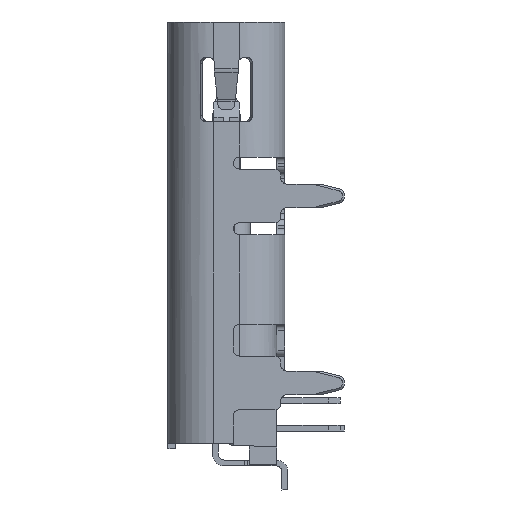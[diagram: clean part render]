
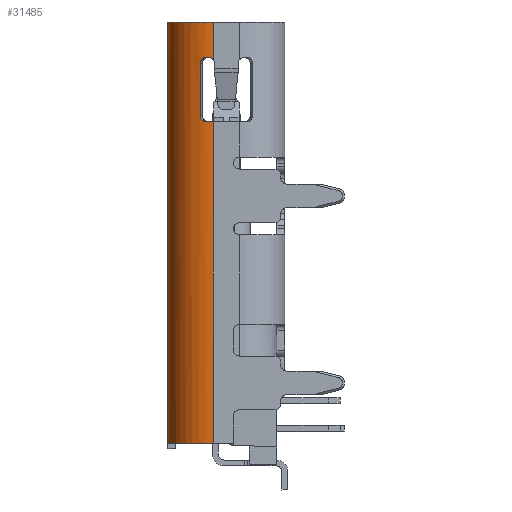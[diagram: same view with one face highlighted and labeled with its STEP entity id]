
A CAD part, left-side view. The second image highlights one B-rep face of the part: STEP entity #31485.
In plain terms, the highlighted cylindrical face has radius 1.15 mm (diameter 2.3 mm), a partial arc.
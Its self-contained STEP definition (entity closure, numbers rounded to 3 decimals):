
#3358=DIRECTION('',(0.,0.,1.));
#3359=VECTOR('',#3358,8.14);
#3360=CARTESIAN_POINT('',(-4.347,2.293,
-4.519));
#3361=LINE('',#3360,#3359);
#3362=CARTESIAN_POINT('',(-3.197,3.443,
-4.477));
#3363=CARTESIAN_POINT('',(-3.208,3.443,
-4.486));
#3364=CARTESIAN_POINT('',(-3.234,3.442,
-4.502));
#3365=CARTESIAN_POINT('',(-3.276,3.44,
-4.516));
#3366=CARTESIAN_POINT('',(-3.305,3.438,
-4.519));
#3367=CARTESIAN_POINT('',(-3.32,3.436,
-4.519));
#3369=DIRECTION('',(0.,0.,-1.));
#3370=VECTOR('',#3369,10.617);
#3371=CARTESIAN_POINT('',(-3.197,3.443,6.141));
#3372=LINE('',#3371,#3370);
#3373=DIRECTION('',(0.,0.,1.));
#3374=VECTOR('',#3373,0.96);
#3375=CARTESIAN_POINT('',(-4.347,2.293,5.181));
#3376=LINE('',#3375,#3374);
#3377=CARTESIAN_POINT('',(-4.34,2.413,5.241));
#3378=CARTESIAN_POINT('',(-4.342,2.397,5.241));
#3379=CARTESIAN_POINT('',(-4.344,2.367,5.236));
#3380=CARTESIAN_POINT('',(-4.346,2.324,5.215));
#3381=CARTESIAN_POINT('',(-4.347,2.302,5.193));
#3382=CARTESIAN_POINT('',(-4.347,2.293,5.181));
#3384=CARTESIAN_POINT('',(-4.296,2.629,5.091));
#3385=CARTESIAN_POINT('',(-4.296,2.629,5.107));
#3386=CARTESIAN_POINT('',(-4.298,2.624,5.138));
#3387=CARTESIAN_POINT('',(-4.304,2.603,5.181));
#3388=CARTESIAN_POINT('',(-4.313,2.571,5.214));
#3389=CARTESIAN_POINT('',(-4.322,2.529,5.235));
#3390=CARTESIAN_POINT('',(-4.328,2.499,5.241));
#3391=CARTESIAN_POINT('',(-4.331,2.483,5.241));
#3393=DIRECTION('',(0.,0.,1.));
#3394=VECTOR('',#3393,1.32);
#3395=CARTESIAN_POINT('',(-4.296,2.629,3.771));
#3396=LINE('',#3395,#3394);
#3397=CARTESIAN_POINT('',(-4.331,2.483,3.621));
#3398=CARTESIAN_POINT('',(-4.328,2.499,3.621));
#3399=CARTESIAN_POINT('',(-4.322,2.529,3.626));
#3400=CARTESIAN_POINT('',(-4.313,2.571,3.647));
#3401=CARTESIAN_POINT('',(-4.304,2.603,3.681));
#3402=CARTESIAN_POINT('',(-4.298,2.624,3.723));
#3403=CARTESIAN_POINT('',(-4.296,2.629,3.754));
#3404=CARTESIAN_POINT('',(-4.296,2.629,3.771));
#4913=CARTESIAN_POINT('',(-3.197,2.293,3.621));
#4914=DIRECTION('',(0.,0.,1.));
#4915=DIRECTION('',(-0.986,0.165,0.));
#4916=AXIS2_PLACEMENT_3D('',#4913,#4914,#4915);
#4939=CARTESIAN_POINT('',(-3.197,2.293,5.241));
#4940=DIRECTION('',(0.,0.,-1.));
#4941=DIRECTION('',(-0.995,0.104,0.));
#4942=AXIS2_PLACEMENT_3D('',#4939,#4940,#4941);
#5242=CARTESIAN_POINT('',(-3.197,2.293,6.141));
#5243=DIRECTION('',(0.,0.,1.));
#5244=DIRECTION('',(0.,1.,0.));
#5245=AXIS2_PLACEMENT_3D('',#5242,#5243,#5244);
#5508=CARTESIAN_POINT('',(-3.197,2.293,
-4.519));
#5509=DIRECTION('',(0.,0.,-1.));
#5510=DIRECTION('',(-1.,0.,0.));
#5511=AXIS2_PLACEMENT_3D('',#5508,#5509,#5510);
#21552=VERTEX_POINT('',#3377);
#21553=VERTEX_POINT('',#3382);
#22686=CARTESIAN_POINT('',(-4.296,2.629,
3.771));
#22687=CARTESIAN_POINT('',(-4.296,2.629,
5.091));
#22688=VERTEX_POINT('',#22686);
#22689=VERTEX_POINT('',#22687);
#23293=VERTEX_POINT('',#3397);
#23574=CARTESIAN_POINT('',(-3.197,3.443,
6.141));
#23576=VERTEX_POINT('',#23574);
#24458=CARTESIAN_POINT('',(-3.197,3.443,
-4.477));
#24459=VERTEX_POINT('',#24458);
#25232=CARTESIAN_POINT('',(-4.331,2.483,
5.241));
#25233=VERTEX_POINT('',#25232);
#26522=CARTESIAN_POINT('',(-4.347,2.293,
6.141));
#26523=VERTEX_POINT('',#26522);
#26664=CARTESIAN_POINT('',(-4.347,2.293,
3.621));
#26666=VERTEX_POINT('',#26664);
#26944=CARTESIAN_POINT('',(-4.347,2.293,
-4.519));
#26945=CARTESIAN_POINT('',(-3.32,3.436,
-4.519));
#26946=VERTEX_POINT('',#26944);
#26947=VERTEX_POINT('',#26945);
#31455=CARTESIAN_POINT('',(-3.197,2.293,
-6.059));
#31456=DIRECTION('',(0.,0.,1.));
#31457=DIRECTION('',(-1.,0.,0.));
#31458=AXIS2_PLACEMENT_3D('',#31455,#31456,#31457);
#31459=CYLINDRICAL_SURFACE('',#31458,1.15);
#31461=ORIENTED_EDGE('',*,*,#31460,.F.);
#31463=ORIENTED_EDGE('',*,*,#31462,.T.);
#31465=ORIENTED_EDGE('',*,*,#31464,.F.);
#31466=ORIENTED_EDGE('',*,*,#31377,.F.);
#31468=ORIENTED_EDGE('',*,*,#31467,.T.);
#31470=ORIENTED_EDGE('',*,*,#31469,.F.);
#31472=ORIENTED_EDGE('',*,*,#31471,.F.);
#31474=ORIENTED_EDGE('',*,*,#31473,.T.);
#31476=ORIENTED_EDGE('',*,*,#31475,.F.);
#31478=ORIENTED_EDGE('',*,*,#31477,.F.);
#31480=ORIENTED_EDGE('',*,*,#31479,.F.);
#31482=ORIENTED_EDGE('',*,*,#31481,.T.);
#31483=EDGE_LOOP('',(#31461,#31463,#31465,#31466,#31468,#31470,#31472,#31474,
#31476,#31478,#31480,#31482));
#31484=FACE_OUTER_BOUND('',#31483,.F.);
#31485=ADVANCED_FACE('',(#31484),#31459,.T.);
#3368=B_SPLINE_CURVE_WITH_KNOTS('',3,(#3362,#3363,#3364,#3365,#3366,#3367),
.UNSPECIFIED.,.F.,.F.,(4,1,1,4),(0.,0.333,0.667,1.),
.UNSPECIFIED.);
#3383=B_SPLINE_CURVE_WITH_KNOTS('',3,(#3377,#3378,#3379,#3380,#3381,#3382),
.UNSPECIFIED.,.F.,.F.,(4,1,1,4),(0.,0.333,0.667,1.),
.UNSPECIFIED.);
#3392=B_SPLINE_CURVE_WITH_KNOTS('',3,(#3384,#3385,#3386,#3387,#3388,#3389,#3390,
#3391),.UNSPECIFIED.,.F.,.F.,(4,1,1,1,1,4),(0.,0.2,0.4,0.6,0.8,1.),
.UNSPECIFIED.);
#3405=B_SPLINE_CURVE_WITH_KNOTS('',3,(#3397,#3398,#3399,#3400,#3401,#3402,#3403,
#3404),.UNSPECIFIED.,.F.,.F.,(4,1,1,1,1,4),(0.,0.2,0.4,0.6,0.8,1.),
.UNSPECIFIED.);
#4917=CIRCLE('',#4916,1.15);
#4943=CIRCLE('',#4942,1.15);
#5246=CIRCLE('',#5245,1.15);
#5512=CIRCLE('',#5511,1.15);
#31377=EDGE_CURVE('',#23576,#24459,#3372,.T.);
#31460=EDGE_CURVE('',#26946,#26666,#3361,.T.);
#31462=EDGE_CURVE('',#26946,#26947,#5512,.T.);
#31464=EDGE_CURVE('',#24459,#26947,#3368,.T.);
#31467=EDGE_CURVE('',#23576,#26523,#5246,.T.);
#31469=EDGE_CURVE('',#21553,#26523,#3376,.T.);
#31471=EDGE_CURVE('',#21552,#21553,#3383,.T.);
#31473=EDGE_CURVE('',#21552,#25233,#4943,.T.);
#31475=EDGE_CURVE('',#22689,#25233,#3392,.T.);
#31477=EDGE_CURVE('',#22688,#22689,#3396,.T.);
#31479=EDGE_CURVE('',#23293,#22688,#3405,.T.);
#31481=EDGE_CURVE('',#23293,#26666,#4917,.T.);
